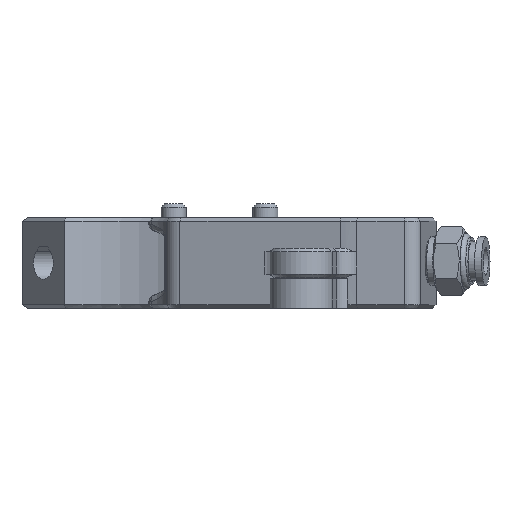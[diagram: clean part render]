
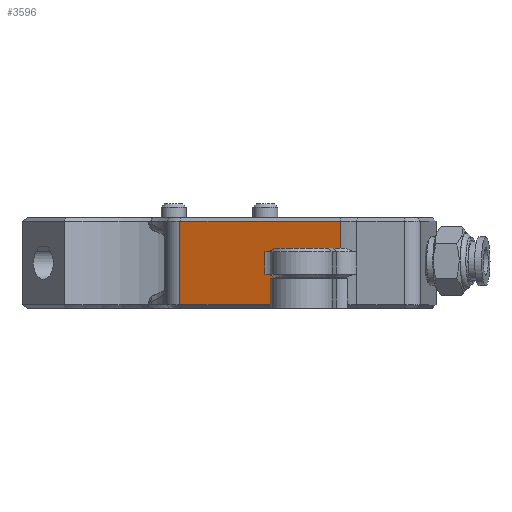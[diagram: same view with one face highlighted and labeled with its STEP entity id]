
A CAD part, front view. The second image highlights one B-rep face of the part: STEP entity #3596.
In plain terms, the highlighted planar face has unit normal (-0.295, -0.955, 0).
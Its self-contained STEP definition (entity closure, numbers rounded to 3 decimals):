
#120=PLANE('',#3946);
#165=(
BOUNDED_CURVE()
B_SPLINE_CURVE(2,(#7457,#7458,#7459),.UNSPECIFIED.,.F.,.F.)
B_SPLINE_CURVE_WITH_KNOTS((3,3),(0.,0.175),.UNSPECIFIED.)
CURVE()
GEOMETRIC_REPRESENTATION_ITEM()
RATIONAL_B_SPLINE_CURVE((1.,1.049,1.))
REPRESENTATION_ITEM('')
);
#166=(
BOUNDED_CURVE()
B_SPLINE_CURVE(2,(#7486,#7487,#7488),.UNSPECIFIED.,.F.,.F.)
B_SPLINE_CURVE_WITH_KNOTS((3,3),(0.175,0.349),
 .UNSPECIFIED.)
CURVE()
GEOMETRIC_REPRESENTATION_ITEM()
RATIONAL_B_SPLINE_CURVE((1.,1.049,1.))
REPRESENTATION_ITEM('')
);
#384=FACE_OUTER_BOUND('',#624,.T.);
#624=EDGE_LOOP('',(#3031,#3032,#3033,#3034,#3035,#3036,#3037,#3038,#3039,
#3040));
#1005=LINE('',#7467,#1258);
#1018=LINE('',#7517,#1271);
#1029=LINE('',#7546,#1282);
#1030=LINE('',#7549,#1283);
#1033=LINE('',#7558,#1286);
#1073=LINE('',#7717,#1326);
#1111=LINE('',#7907,#1364);
#1131=LINE('',#7951,#1384);
#1258=VECTOR('',#4280,10.);
#1271=VECTOR('',#4323,10.);
#1282=VECTOR('',#4352,10.);
#1283=VECTOR('',#4355,10.);
#1286=VECTOR('',#4364,10.);
#1326=VECTOR('',#4532,10.);
#1364=VECTOR('',#4682,10.);
#1384=VECTOR('',#4746,10.);
#1562=VERTEX_POINT('',#7455);
#1563=VERTEX_POINT('',#7456);
#1565=VERTEX_POINT('',#7465);
#1570=VERTEX_POINT('',#7485);
#1576=VERTEX_POINT('',#7516);
#1585=VERTEX_POINT('',#7544);
#1586=VERTEX_POINT('',#7548);
#1589=VERTEX_POINT('',#7556);
#1638=VERTEX_POINT('',#7715);
#1686=VERTEX_POINT('',#7902);
#1938=EDGE_CURVE('',#1562,#1563,#165,.F.);
#1943=EDGE_CURVE('',#1565,#1562,#1005,.T.);
#1952=EDGE_CURVE('',#1570,#1565,#166,.F.);
#1963=EDGE_CURVE('',#1576,#1563,#1018,.T.);
#1978=EDGE_CURVE('',#1570,#1585,#1029,.T.);
#1979=EDGE_CURVE('',#1586,#1576,#1030,.T.);
#1984=EDGE_CURVE('',#1585,#1589,#1033,.T.);
#2061=EDGE_CURVE('',#1586,#1638,#1073,.T.);
#2134=EDGE_CURVE('',#1686,#1589,#1111,.T.);
#2156=EDGE_CURVE('',#1638,#1686,#1131,.T.);
#3031=ORIENTED_EDGE('',*,*,#1978,.T.);
#3032=ORIENTED_EDGE('',*,*,#1984,.T.);
#3033=ORIENTED_EDGE('',*,*,#2134,.F.);
#3034=ORIENTED_EDGE('',*,*,#2156,.F.);
#3035=ORIENTED_EDGE('',*,*,#2061,.F.);
#3036=ORIENTED_EDGE('',*,*,#1979,.T.);
#3037=ORIENTED_EDGE('',*,*,#1963,.T.);
#3038=ORIENTED_EDGE('',*,*,#1938,.F.);
#3039=ORIENTED_EDGE('',*,*,#1943,.F.);
#3040=ORIENTED_EDGE('',*,*,#1952,.F.);
#3596=ADVANCED_FACE('',(#384),#120,.T.);
#3946=AXIS2_PLACEMENT_3D('',#7950,#4744,#4745);
#4280=DIRECTION('',(0.,0.,-1.));
#4323=DIRECTION('',(-0.955,0.295,0.));
#4352=DIRECTION('',(0.955,-0.295,0.));
#4355=DIRECTION('',(0.,0.,1.));
#4364=DIRECTION('',(0.,0.,1.));
#4532=DIRECTION('',(-0.955,0.295,0.));
#4682=DIRECTION('',(0.955,-0.295,0.));
#4744=DIRECTION('center_axis',(-0.295,-0.955,0.));
#4745=DIRECTION('ref_axis',(0.955,-0.295,0.));
#4746=DIRECTION('',(0.,0.,1.));
#7455=CARTESIAN_POINT('',(20.455,-26.352,-116.6));
#7456=CARTESIAN_POINT('',(22.04,-26.842,-117.1));
#7457=CARTESIAN_POINT('Ctrl Pts',(22.04,-26.842,-117.1));
#7458=CARTESIAN_POINT('Ctrl Pts',(21.175,-26.575,-116.6));
#7459=CARTESIAN_POINT('Ctrl Pts',(20.455,-26.352,-116.6));
#7465=CARTESIAN_POINT('',(20.455,-26.352,-113.4));
#7467=CARTESIAN_POINT('',(20.455,-26.352,-115.));
#7485=CARTESIAN_POINT('',(22.04,-26.842,-112.9));
#7486=CARTESIAN_POINT('Ctrl Pts',(20.455,-26.352,-113.4));
#7487=CARTESIAN_POINT('Ctrl Pts',(21.175,-26.575,-113.4));
#7488=CARTESIAN_POINT('Ctrl Pts',(22.04,-26.842,-112.9));
#7516=CARTESIAN_POINT('',(31.292,-29.703,-117.1));
#7517=CARTESIAN_POINT('',(17.563,-25.458,-117.1));
#7544=CARTESIAN_POINT('',(31.292,-29.703,-112.9));
#7546=CARTESIAN_POINT('',(17.563,-25.458,-112.9));
#7548=CARTESIAN_POINT('',(31.292,-29.703,-121.));
#7549=CARTESIAN_POINT('',(31.292,-29.703,-115.));
#7556=CARTESIAN_POINT('',(31.292,-29.703,-109.));
#7558=CARTESIAN_POINT('',(31.292,-29.703,-115.));
#7715=CARTESIAN_POINT('',(8.265,-22.583,-121.));
#7717=CARTESIAN_POINT('',(7.921,-22.477,-121.));
#7902=CARTESIAN_POINT('',(8.265,-22.583,-109.));
#7907=CARTESIAN_POINT('',(7.921,-22.477,-109.));
#7950=CARTESIAN_POINT('Origin',(6.795,-22.129,-115.));
#7951=CARTESIAN_POINT('',(8.265,-22.583,-115.));
